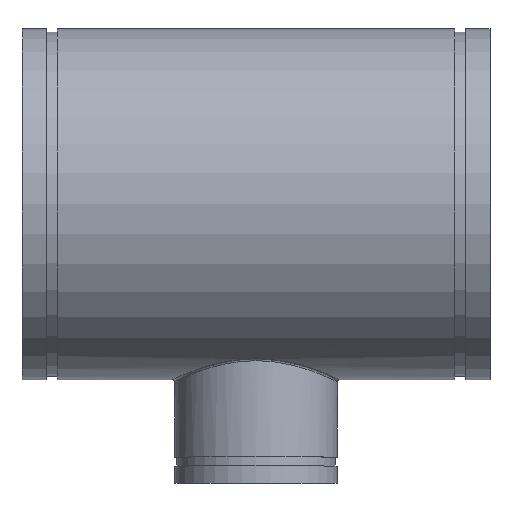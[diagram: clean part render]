
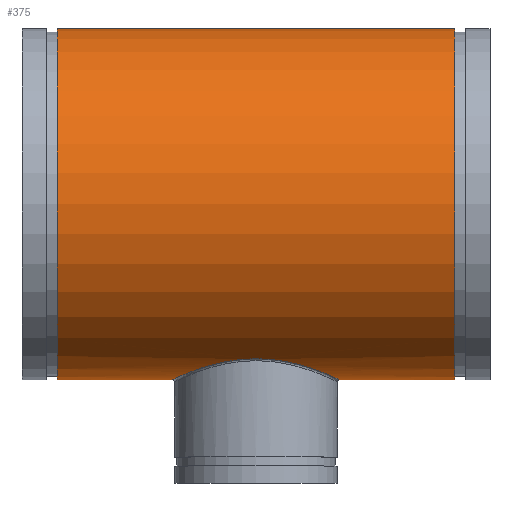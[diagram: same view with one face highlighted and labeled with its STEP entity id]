
A CAD part, top view. The second image highlights one B-rep face of the part: STEP entity #375.
In plain terms, the highlighted cylindrical face has radius 247.65 mm (diameter 495.3 mm), a full revolution.
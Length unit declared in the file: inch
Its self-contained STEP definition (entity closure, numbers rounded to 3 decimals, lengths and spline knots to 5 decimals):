
#54=FACE_BOUND('',#119,.T.);
#65=LINE('',#826,#76);
#76=VECTOR('',#483,9.75);
#87=CYLINDRICAL_SURFACE('',#415,9.75);
#98=FACE_OUTER_BOUND('',#118,.T.);
#118=EDGE_LOOP('',(#266,#267,#268,#269));
#119=EDGE_LOOP('',(#270));
#150=B_SPLINE_CURVE_WITH_KNOTS('',3,(#793,#794,#795,#796,#797,#798,#799,
#800,#801,#802,#803,#804,#805,#806,#807,#808,#809,#810,#811,#812,#813,#814,
#815,#816,#817,#818,#819,#820,#821),.UNSPECIFIED.,.T.,.F.,(4,1,1,1,1,1,
1,1,1,1,1,1,1,1,1,1,1,1,1,1,1,1,1,1,1,1,4),(-70.46662,-67.94995,
-65.43329,-60.39996,-57.0444,-53.68885,
-52.84996,-52.01107,-50.3333,-46.97774,
-43.62219,-40.26664,-36.91109,-33.55553,
-30.19998,-28.5222,-26.84443,-23.48887,
-20.13332,-18.45554,-17.61665,-16.77777,
-13.42221,-10.06666,-5.03333,-2.51666,
0.),.UNSPECIFIED.);
#154=CIRCLE('',#416,9.75);
#155=CIRCLE('',#417,9.75);
#182=VERTEX_POINT('',#756);
#185=VERTEX_POINT('',#823);
#186=VERTEX_POINT('',#825);
#219=EDGE_CURVE('',#182,#182,#150,.T.);
#220=EDGE_CURVE('',#185,#185,#154,.T.);
#221=EDGE_CURVE('',#185,#186,#65,.T.);
#222=EDGE_CURVE('',#186,#186,#155,.T.);
#266=ORIENTED_EDGE('',*,*,#220,.T.);
#267=ORIENTED_EDGE('',*,*,#221,.T.);
#268=ORIENTED_EDGE('',*,*,#222,.T.);
#269=ORIENTED_EDGE('',*,*,#221,.F.);
#270=ORIENTED_EDGE('',*,*,#219,.F.);
#375=ADVANCED_FACE('',(#98,#54),#87,.T.);
#415=AXIS2_PLACEMENT_3D('',#822,#479,#480);
#416=AXIS2_PLACEMENT_3D('',#824,#481,#482);
#417=AXIS2_PLACEMENT_3D('',#827,#484,#485);
#479=DIRECTION('center_axis',(-1.,0.,0.));
#480=DIRECTION('ref_axis',(0.,-1.,0.));
#481=DIRECTION('center_axis',(1.,0.,0.));
#482=DIRECTION('ref_axis',(0.,-1.,0.));
#483=DIRECTION('',(1.,0.,0.));
#484=DIRECTION('center_axis',(-1.,0.,0.));
#485=DIRECTION('ref_axis',(0.,-1.,0.));
#756=CARTESIAN_POINT('',(0.,-8.60139,-4.59114));
#793=CARTESIAN_POINT('Ctrl Pts',(0.,-8.60139,
-4.59114));
#794=CARTESIAN_POINT('Ctrl Pts',(0.3532,-8.60139,-4.59114));
#795=CARTESIAN_POINT('Ctrl Pts',(1.05923,-8.64473,-4.51109));
#796=CARTESIAN_POINT('Ctrl Pts',(2.38164,-8.88026,-4.04681));
#797=CARTESIAN_POINT('Ctrl Pts',(3.56323,-9.27691,-3.11229));
#798=CARTESIAN_POINT('Ctrl Pts',(4.38525,-9.62636,-1.72425));
#799=CARTESIAN_POINT('Ctrl Pts',(4.62804,-9.73997,-0.69758));
#800=CARTESIAN_POINT('Ctrl Pts',(4.65441,-9.75202,0.00005));
#801=CARTESIAN_POINT('Ctrl Pts',(4.63659,-9.74375,0.46489));
#802=CARTESIAN_POINT('Ctrl Pts',(4.51179,-9.68604,1.27036));
#803=CARTESIAN_POINT('Ctrl Pts',(4.07597,-9.48972,2.3479));
#804=CARTESIAN_POINT('Ctrl Pts',(3.20825,-9.15038,3.41445));
#805=CARTESIAN_POINT('Ctrl Pts',(2.06621,-8.81261,4.18886));
#806=CARTESIAN_POINT('Ctrl Pts',(0.71733,-8.59253,4.60838));
#807=CARTESIAN_POINT('Ctrl Pts',(-0.71738,-8.5924,4.60849));
#808=CARTESIAN_POINT('Ctrl Pts',(-1.84134,-8.77592,4.25878));
#809=CARTESIAN_POINT('Ctrl Pts',(-2.63724,-8.98155,3.80161));
#810=CARTESIAN_POINT('Ctrl Pts',(-3.35293,-9.2069,3.23665));
#811=CARTESIAN_POINT('Ctrl Pts',(-4.07596,-9.48973,2.34781));
#812=CARTESIAN_POINT('Ctrl Pts',(-4.51185,-9.68608,1.27039));
#813=CARTESIAN_POINT('Ctrl Pts',(-4.63658,-9.74374,0.46484));
#814=CARTESIAN_POINT('Ctrl Pts',(-4.65441,-9.75203,0.00002));
#815=CARTESIAN_POINT('Ctrl Pts',(-4.62802,-9.73996,-0.69762));
#816=CARTESIAN_POINT('Ctrl Pts',(-4.38525,-9.62637,-1.72429));
#817=CARTESIAN_POINT('Ctrl Pts',(-3.56321,-9.2769,-3.11229));
#818=CARTESIAN_POINT('Ctrl Pts',(-2.38159,-8.88025,-4.04685));
#819=CARTESIAN_POINT('Ctrl Pts',(-1.05925,-8.64473,-4.51107));
#820=CARTESIAN_POINT('Ctrl Pts',(-0.3532,-8.60139,-4.59114));
#821=CARTESIAN_POINT('Ctrl Pts',(0.,-8.60139,
-4.59114));
#822=CARTESIAN_POINT('Origin',(13.,0.,0.));
#823=CARTESIAN_POINT('',(-11.035,9.75,0.));
#824=CARTESIAN_POINT('Origin',(-11.035,0.,0.));
#825=CARTESIAN_POINT('',(11.035,9.75,0.));
#826=CARTESIAN_POINT('',(13.,9.75,0.));
#827=CARTESIAN_POINT('Origin',(11.035,0.,0.));
